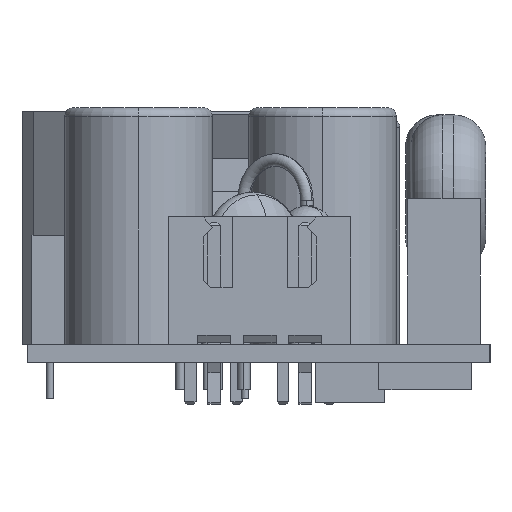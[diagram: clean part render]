
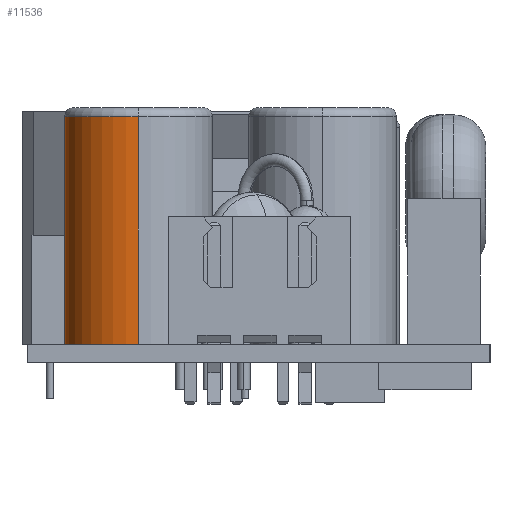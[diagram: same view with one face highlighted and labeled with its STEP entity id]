
A CAD part, left-side view. The second image highlights one B-rep face of the part: STEP entity #11536.
In plain terms, the highlighted cylindrical face has radius 4.05 mm (diameter 8.1 mm), a partial arc.
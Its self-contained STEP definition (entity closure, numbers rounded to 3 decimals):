
#123 = CIRCLE ( 'NONE', #14731, 4.05 ) ;
#542 = EDGE_CURVE ( 'NONE', #812, #13346, #1374, .T. ) ;
#721 = CARTESIAN_POINT ( 'NONE',  ( 55.052, 95.402, 13. ) ) ;
#812 = VERTEX_POINT ( 'NONE', #9492 ) ;
#1374 = CIRCLE ( 'NONE', #4614, 4.05 ) ;
#1950 = DIRECTION ( 'NONE',  ( 0., 0., 1. ) ) ;
#4059 = EDGE_CURVE ( 'NONE', #11999, #13346, #13373, .T. ) ;
#4081 = CARTESIAN_POINT ( 'NONE',  ( 51.002, 95.402, 12.5 ) ) ;
#4614 = AXIS2_PLACEMENT_3D ( 'NONE', #6445, #1950, #14210 ) ;
#4684 = VERTEX_POINT ( 'NONE', #9458 ) ;
#4950 = CARTESIAN_POINT ( 'NONE',  ( 51.002, 95.402, 13. ) ) ;
#5664 = CARTESIAN_POINT ( 'NONE',  ( 51.002, 95.402, 0. ) ) ;
#5722 = DIRECTION ( 'NONE',  ( 0., 0., -1. ) ) ;
#6355 = AXIS2_PLACEMENT_3D ( 'NONE', #721, #11473, #13039 ) ;
#6445 = CARTESIAN_POINT ( 'NONE',  ( 55.052, 95.402, 0. ) ) ;
#7396 = CARTESIAN_POINT ( 'NONE',  ( 59.102, 95.402, 13. ) ) ;
#7535 = ORIENTED_EDGE ( 'NONE', *, *, #19777, .T. ) ;
#8760 = ORIENTED_EDGE ( 'NONE', *, *, #542, .T. ) ;
#9371 = CYLINDRICAL_SURFACE ( 'NONE', #6355, 4.05 ) ;
#9458 = CARTESIAN_POINT ( 'NONE',  ( 59.102, 95.402, 12.5 ) ) ;
#9492 = CARTESIAN_POINT ( 'NONE',  ( 59.102, 95.402, 0. ) ) ;
#9666 = LINE ( 'NONE', #7396, #16176 ) ;
#11092 = DIRECTION ( 'NONE',  ( 0., 0., -1. ) ) ;
#11473 = DIRECTION ( 'NONE',  ( 0., 0., -1. ) ) ;
#11536 = ADVANCED_FACE ( 'NONE', ( #17571 ), #9371, .T. ) ;
#11999 = VERTEX_POINT ( 'NONE', #4081 ) ;
#12176 = VECTOR ( 'NONE', #11092, 1000. ) ;
#13039 = DIRECTION ( 'NONE',  ( -1., 0., 0. ) ) ;
#13346 = VERTEX_POINT ( 'NONE', #5664 ) ;
#13373 = LINE ( 'NONE', #4950, #12176 ) ;
#14210 = DIRECTION ( 'NONE',  ( -1., 0., 0. ) ) ;
#14325 = DIRECTION ( 'NONE',  ( 0., 0., -1. ) ) ;
#14529 = DIRECTION ( 'NONE',  ( 1., 0., 0. ) ) ;
#14731 = AXIS2_PLACEMENT_3D ( 'NONE', #19096, #14325, #14529 ) ;
#15490 = EDGE_CURVE ( 'NONE', #4684, #812, #9666, .T. ) ;
#16176 = VECTOR ( 'NONE', #5722, 1000. ) ;
#16491 = EDGE_LOOP ( 'NONE', ( #7535, #19986, #8760, #19348 ) ) ;
#17571 = FACE_OUTER_BOUND ( 'NONE', #16491, .T. ) ;
#19096 = CARTESIAN_POINT ( 'NONE',  ( 55.052, 95.402, 12.5 ) ) ;
#19348 = ORIENTED_EDGE ( 'NONE', *, *, #4059, .F. ) ;
#19777 = EDGE_CURVE ( 'NONE', #11999, #4684, #123, .T. ) ;
#19986 = ORIENTED_EDGE ( 'NONE', *, *, #15490, .T. ) ;
